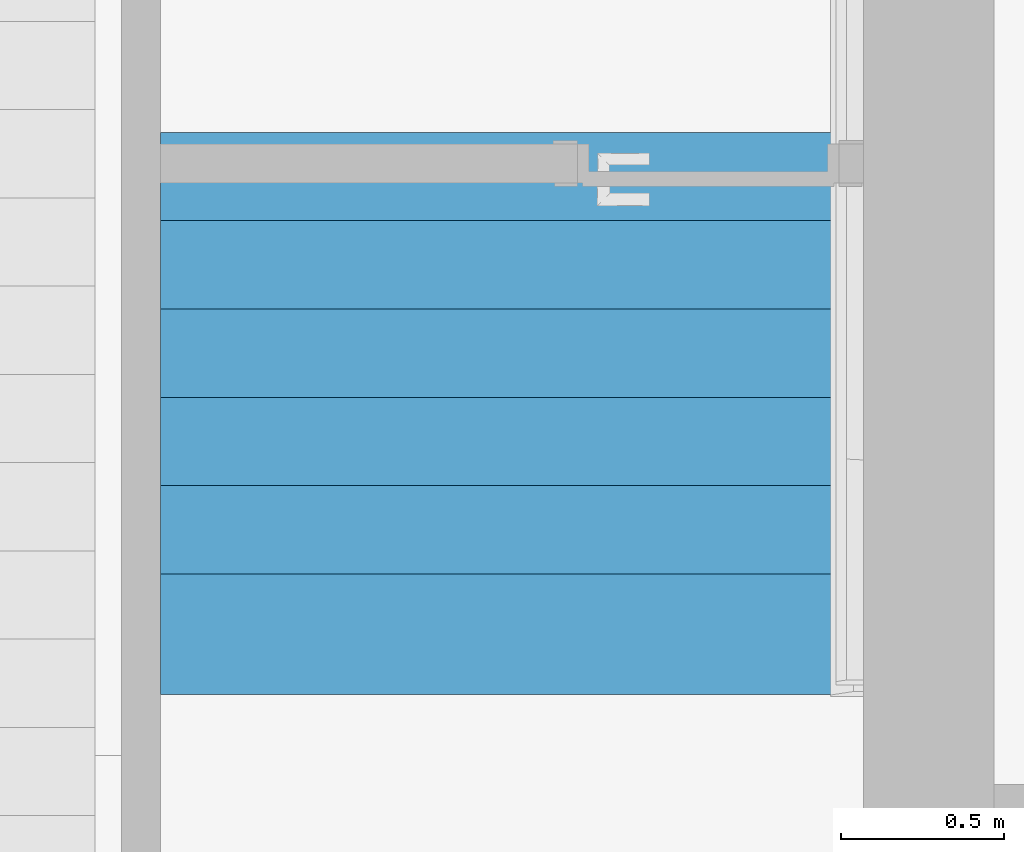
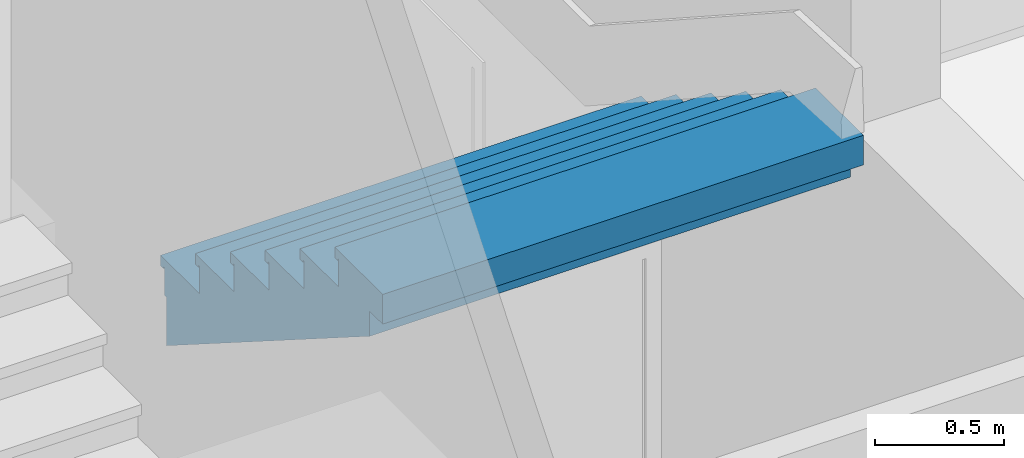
# One storey, part 98 of 117: 1 stair flight, 1 element without a shape of its own.
"""IFC4 building model written with IfcOpenShell, lengths in metres."""

from ifc_helpers import new_model, entity, si_unit, converted_unit, derived_unit, direction, frame, origin, place, context, subcontext, project, spatial, polygons, material, constituent, constituent_set, type_object, element, aggregate, save


model = new_model("IFC4")

# Units and contexts
model_context = context("Model", 3, precision=1e-05, world=origin(), true_north=direction((6.123031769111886e-17, 1.0)))
body_context = subcontext(model_context, "Body", "Model", "MODEL_VIEW")
ifc_project = project(units=[si_unit("LENGTHUNIT", "METRE"), si_unit("AREAUNIT", "SQUARE_METRE"), si_unit("VOLUMEUNIT", "CUBIC_METRE"), converted_unit("PLANEANGLEUNIT", "DEGREE", entity("IfcRatioMeasure", 0.017453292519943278), si_unit("PLANEANGLEUNIT", "RADIAN"), dimensions=[0, 0, 0, 0, 0, 0, 0]), si_unit("MASSUNIT", "GRAM", prefix="KILO"), derived_unit("MASSDENSITYUNIT", [(si_unit("MASSUNIT", "GRAM", prefix="KILO"), 1), (si_unit("LENGTHUNIT", "METRE"), -3)]), derived_unit("MOMENTOFINERTIAUNIT", [(si_unit("LENGTHUNIT", "METRE"), 4)]), si_unit("TIMEUNIT", "SECOND"), si_unit("FREQUENCYUNIT", "HERTZ"), si_unit("THERMODYNAMICTEMPERATUREUNIT", "DEGREE_CELSIUS"), derived_unit("THERMALTRANSMITTANCEUNIT", [(si_unit("MASSUNIT", "GRAM", prefix="KILO"), 1), (si_unit("THERMODYNAMICTEMPERATUREUNIT", "KELVIN"), -1), (si_unit("TIMEUNIT", "SECOND"), -3)]), derived_unit("VOLUMETRICFLOWRATEUNIT", [(si_unit("LENGTHUNIT", "METRE"), 3), (si_unit("TIMEUNIT", "SECOND"), -1)]), derived_unit("MASSFLOWRATEUNIT", [(si_unit("MASSUNIT", "GRAM", prefix="KILO"), 1), (si_unit("TIMEUNIT", "SECOND"), -1)]), derived_unit("ROTATIONALFREQUENCYUNIT", [(si_unit("TIMEUNIT", "SECOND"), -1)]), si_unit("ELECTRICCURRENTUNIT", "AMPERE"), si_unit("ELECTRICVOLTAGEUNIT", "VOLT"), si_unit("POWERUNIT", "WATT"), si_unit("FORCEUNIT", "NEWTON", prefix="KILO"), si_unit("ILLUMINANCEUNIT", "LUX"), si_unit("LUMINOUSFLUXUNIT", "LUMEN"), si_unit("LUMINOUSINTENSITYUNIT", "CANDELA"), derived_unit("USERDEFINED", [(si_unit("MASSUNIT", "GRAM", prefix="KILO"), -1), (si_unit("LENGTHUNIT", "METRE"), -2), (si_unit("TIMEUNIT", "SECOND"), 3), (si_unit("LUMINOUSFLUXUNIT", "LUMEN"), 1)]), derived_unit("SOUNDPOWERUNIT", [(si_unit("MASSUNIT", "GRAM", prefix="KILO"), 1), (si_unit("LENGTHUNIT", "METRE"), 2), (si_unit("TIMEUNIT", "SECOND"), -3)]), derived_unit("SOUNDPRESSUREUNIT", [(si_unit("MASSUNIT", "GRAM", prefix="KILO"), 1), (si_unit("LENGTHUNIT", "METRE"), -1), (si_unit("TIMEUNIT", "SECOND"), -2)]), derived_unit("LINEARVELOCITYUNIT", [(si_unit("LENGTHUNIT", "METRE"), 1), (si_unit("TIMEUNIT", "SECOND"), -1)]), si_unit("PRESSUREUNIT", "PASCAL"), derived_unit("USERDEFINED", [(si_unit("LENGTHUNIT", "METRE"), -2), (si_unit("MASSUNIT", "GRAM", prefix="KILO"), 1), (si_unit("TIMEUNIT", "SECOND"), -2)]), derived_unit("LINEARFORCEUNIT", [(si_unit("MASSUNIT", "GRAM", prefix="KILO"), 1), (si_unit("LENGTHUNIT", "METRE"), 1), (si_unit("TIMEUNIT", "SECOND"), -2), (si_unit("LENGTHUNIT", "METRE"), -1)]), derived_unit("PLANARFORCEUNIT", [(si_unit("MASSUNIT", "GRAM", prefix="KILO"), 1), (si_unit("LENGTHUNIT", "METRE"), 1), (si_unit("TIMEUNIT", "SECOND"), -2), (si_unit("LENGTHUNIT", "METRE"), -2)])], contexts=[model_context])

# Site, building, storey
site_placement = place(None, origin())
site = spatial("IfcSite", under=ifc_project, at=site_placement, Name="Superficie", CompositionType="ELEMENT")
building_placement = place(site_placement, origin())
building = spatial("IfcBuilding", under=site, at=building_placement, CompositionType="ELEMENT")
storey_placement = place(building_placement, origin())
storey = spatial("IfcBuildingStorey", under=building, at=storey_placement, Name="Nivel 0", CompositionType="ELEMENT", Elevation=0.0)

# Stair, stair flight
stair_type = type_object("IfcStairType", Name="Escalera prefabricada:Escalera prefabricada", PredefinedType="HALF_TURN_STAIR")
stair_placement = place(storey_placement, origin())
stair = element("IfcStair", 1, at=stair_placement, inside=storey, type_object=stair_type, Name="Escalera prefabricada:Escalera", ObjectType="Escalera prefabricada:Escalera prefabricada", PredefinedType="HALF_TURN_STAIR")
ifc_material_1 = material(Name="Cerámica blanca", Category="Cerámica")
ifc_constituent_1 = constituent(ifc_material_1, Name="Cerámica blanca", Category="Cerámica")
ifc_material_2 = material(Name="Hormigón", Category="Hormigón")
ifc_constituent_2 = constituent(ifc_material_2, Name="Hormigón", Category="Hormigón")
ifc_constituent_set = constituent_set(constituents=[ifc_constituent_1, ifc_constituent_2], Name="MaterialConstituentSet")
stair_flight_type = type_object("IfcStairFlightType", Name="Tramo monolítico:Huella 40 mm Mamperlán 30 mm Contrahuella 15 mm", PredefinedType="STRAIGHT")
stair_flight_placement = place(stair_placement, frame((-25.193200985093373, -1.2041707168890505, 0.0)))
stair_flight = element("IfcStairFlight", 2, at=stair_flight_placement, type_object=stair_flight_type, material=ifc_constituent_set, Name="Escalera prefabricada:Escalera:336865 Run 2", ObjectType="Tramo monolítico:Huella 40 mm Mamperlán 30 mm Contrahuella 15 mm", PredefinedType="STRAIGHT", context=body_context, shape_type="Tessellation", body=[
    polygons([(4.331468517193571e-15, 1.72, 2.6928571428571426), (4.331468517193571e-15, 1.72, 2.7428571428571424), (2.150000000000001, 1.72, 2.7428571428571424), (2.150000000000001, 1.72, 2.6928571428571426), (4.331468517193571e-15, 1.697, 2.6928571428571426), (2.150000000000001, 1.697, 2.6928571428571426), (4.331468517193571e-15, 1.697, 2.7028571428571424), (2.150000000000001, 1.697, 2.7028571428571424), (4.331468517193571e-15, 1.405, 2.7428571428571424), (2.150000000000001, 1.405, 2.7428571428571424), (2.150000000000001, 1.405, 2.7028571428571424), (4.331468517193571e-15, 1.405, 2.7028571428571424)], [[[1, 2, 3, 4]], [[5, 1, 4, 6]], [[7, 5, 6, 8]], [[3, 2, 9, 10]], [[11, 12, 7, 8]], [[3, 10, 11, 8, 6, 4]], [[9, 2, 1, 5, 7, 12]], [[10, 9, 12, 11]]], closed=True),
    polygons([(4.331468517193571e-15, 1.69, 2.7028571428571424), (4.331468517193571e-15, 1.69, 2.571428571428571), (4.331468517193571e-15, 1.675, 2.571428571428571), (4.331468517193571e-15, 1.675, 2.7028571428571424), (2.150000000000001, 1.69, 2.7028571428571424), (2.150000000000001, 1.675, 2.7028571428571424), (2.150000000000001, 1.675, 2.571428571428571), (2.150000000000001, 1.69, 2.571428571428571)], [[[1, 2, 3, 4]], [[5, 6, 7, 8]], [[2, 1, 5, 8]], [[3, 2, 8, 7]], [[4, 3, 7, 6]], [[1, 4, 6, 5]]], closed=True),
    polygons([(4.331468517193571e-15, 1.42, 2.8742857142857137), (4.331468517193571e-15, 1.42, 2.7428571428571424), (4.331468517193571e-15, 1.405, 2.7428571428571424), (4.331468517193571e-15, 1.405, 2.8742857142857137), (2.150000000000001, 1.42, 2.8742857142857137), (2.150000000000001, 1.405, 2.8742857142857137), (2.150000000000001, 1.405, 2.7428571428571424), (2.150000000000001, 1.42, 2.7428571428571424)], [[[1, 2, 3, 4]], [[5, 6, 7, 8]], [[2, 1, 5, 8]], [[3, 2, 8, 7]], [[4, 3, 7, 6]], [[1, 4, 6, 5]]], closed=True),
    polygons([(2.150000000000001, 1.4500000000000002, 2.914285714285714), (4.331468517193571e-15, 1.4500000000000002, 2.914285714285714), (4.331468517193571e-15, 1.135, 2.914285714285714), (2.150000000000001, 1.135, 2.914285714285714), (2.150000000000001, 1.135, 2.8742857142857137), (4.331468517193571e-15, 1.135, 2.8742857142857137), (4.331468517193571e-15, 1.4269999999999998, 2.8742857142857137), (2.150000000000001, 1.4269999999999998, 2.8742857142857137), (2.150000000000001, 1.4269999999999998, 2.864285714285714), (2.150000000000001, 1.4500000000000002, 2.864285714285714), (4.331468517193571e-15, 1.4500000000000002, 2.864285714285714), (4.331468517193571e-15, 1.4269999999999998, 2.864285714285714)], [[[1, 2, 3, 4]], [[5, 6, 7, 8]], [[1, 4, 5, 8, 9, 10]], [[3, 2, 11, 12, 7, 6]], [[4, 3, 6, 5]], [[11, 2, 1, 10]], [[12, 11, 10, 9]], [[7, 12, 9, 8]]], closed=True),
    polygons([(0.0, 1.149999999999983, 3.0457142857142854), (0.0, 1.149999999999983, 2.914285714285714), (0.0, 1.134999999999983, 2.914285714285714), (0.0, 1.134999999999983, 3.0457142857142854), (2.1499999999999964, 1.149999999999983, 3.0457142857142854), (2.1499999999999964, 1.134999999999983, 3.0457142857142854), (2.1499999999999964, 1.134999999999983, 2.914285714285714), (2.1499999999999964, 1.149999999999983, 2.914285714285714)], [[[1, 2, 3, 4]], [[5, 6, 7, 8]], [[2, 1, 5, 8]], [[3, 2, 8, 7]], [[4, 3, 7, 6]], [[1, 4, 6, 5]]], closed=True),
    polygons([(2.1499999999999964, 1.179999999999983, 3.0857142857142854), (0.0, 1.179999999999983, 3.0857142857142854), (0.0, 0.864999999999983, 3.0857142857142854), (2.1499999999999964, 0.864999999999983, 3.0857142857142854), (2.1499999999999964, 0.864999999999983, 3.0457142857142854), (0.0, 0.864999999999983, 3.0457142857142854), (0.0, 1.156999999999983, 3.0457142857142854), (2.1499999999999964, 1.156999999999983, 3.0457142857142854), (2.1499999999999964, 1.156999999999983, 3.0357142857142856), (2.1499999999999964, 1.179999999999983, 3.0357142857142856), (0.0, 1.179999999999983, 3.0357142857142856), (0.0, 1.156999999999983, 3.0357142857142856)], [[[1, 2, 3, 4]], [[5, 6, 7, 8]], [[1, 4, 5, 8, 9, 10]], [[3, 2, 11, 12, 7, 6]], [[4, 3, 6, 5]], [[11, 2, 1, 10]], [[12, 11, 10, 9]], [[7, 12, 9, 8]]], closed=True),
    polygons([(0.0, 0.88, 3.2171428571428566), (0.0, 0.8800000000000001, 3.0857142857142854), (0.0, 0.8650000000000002, 3.0857142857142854), (0.0, 0.865, 3.2171428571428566), (2.1499999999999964, 0.88, 3.2171428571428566), (2.1499999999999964, 0.865, 3.2171428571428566), (2.1499999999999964, 0.8650000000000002, 3.0857142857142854), (2.1499999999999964, 0.8800000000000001, 3.0857142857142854)], [[[1, 2, 3, 4]], [[5, 6, 7, 8]], [[2, 1, 5, 8]], [[3, 2, 8, 7]], [[4, 3, 7, 6]], [[1, 4, 6, 5]]], closed=True),
    polygons([(2.1499999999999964, 0.9100000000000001, 3.2571428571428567), (0.0, 0.9100000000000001, 3.2571428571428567), (0.0, 0.5950000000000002, 3.2571428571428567), (2.1499999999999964, 0.5950000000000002, 3.2571428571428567), (2.1499999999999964, 0.5950000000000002, 3.2171428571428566), (0.0, 0.5950000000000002, 3.2171428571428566), (0.0, 0.887, 3.2171428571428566), (2.1499999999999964, 0.887, 3.2171428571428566), (2.1499999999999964, 0.887, 3.207142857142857), (2.1499999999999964, 0.9100000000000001, 3.207142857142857), (0.0, 0.9100000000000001, 3.207142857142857), (0.0, 0.887, 3.207142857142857)], [[[1, 2, 3, 4]], [[5, 6, 7, 8]], [[1, 4, 5, 8, 9, 10]], [[3, 2, 11, 12, 7, 6]], [[4, 3, 6, 5]], [[11, 2, 1, 10]], [[12, 11, 10, 9]], [[7, 12, 9, 8]]], closed=True),
    polygons([(0.0, 0.6099999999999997, 3.3885714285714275), (0.0, 0.6099999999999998, 3.2571428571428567), (0.0, 0.5949999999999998, 3.2571428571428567), (0.0, 0.5949999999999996, 3.3885714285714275), (2.1499999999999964, 0.6099999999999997, 3.3885714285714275), (2.1499999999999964, 0.5949999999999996, 3.3885714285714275), (2.1499999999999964, 0.5949999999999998, 3.2571428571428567), (2.1499999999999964, 0.6099999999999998, 3.2571428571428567)], [[[1, 2, 3, 4]], [[5, 6, 7, 8]], [[2, 1, 5, 8]], [[3, 2, 8, 7]], [[4, 3, 7, 6]], [[1, 4, 6, 5]]], closed=True),
    polygons([(2.1499999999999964, 0.6399999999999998, 3.4285714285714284), (0.0, 0.6399999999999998, 3.4285714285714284), (0.0, 0.3249999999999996, 3.4285714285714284), (2.1499999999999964, 0.3249999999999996, 3.4285714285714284), (2.1499999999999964, 0.3249999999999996, 3.3885714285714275), (0.0, 0.3249999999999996, 3.3885714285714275), (0.0, 0.6169999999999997, 3.3885714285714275), (2.1499999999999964, 0.6169999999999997, 3.3885714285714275), (2.1499999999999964, 0.6169999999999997, 3.378571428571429), (2.1499999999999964, 0.6399999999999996, 3.378571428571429), (0.0, 0.6399999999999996, 3.378571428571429), (0.0, 0.6169999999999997, 3.378571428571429)], [[[1, 2, 3, 4]], [[5, 6, 7, 8]], [[1, 4, 5, 8, 9, 10]], [[3, 2, 11, 12, 7, 6]], [[4, 3, 6, 5]], [[11, 2, 1, 10]], [[12, 11, 10, 9]], [[7, 12, 9, 8]]], closed=True),
    polygons([(0.0, 0.34, 3.559999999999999), (0.0, 0.34, 3.428571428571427), (0.0, 0.32499999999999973, 3.428571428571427), (0.0, 0.325, 3.559999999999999), (2.1499999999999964, 0.34, 3.559999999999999), (2.1499999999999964, 0.325, 3.559999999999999), (2.1499999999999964, 0.32499999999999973, 3.428571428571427), (2.1499999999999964, 0.34, 3.428571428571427)], [[[1, 2, 3, 4]], [[5, 6, 7, 8]], [[2, 1, 5, 8]], [[3, 2, 8, 7]], [[4, 3, 7, 6]], [[1, 4, 6, 5]]], closed=True),
    polygons([(2.1499999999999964, 0.36999999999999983, 3.5999999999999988), (0.0, 0.3700000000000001, 3.5999999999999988), (0.0, 0.0, 3.5999999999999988), (2.1499999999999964, 0.0, 3.5999999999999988), (2.1499999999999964, 0.0, 3.559999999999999), (0.0, 0.0, 3.559999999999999), (0.0, 0.3469999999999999, 3.559999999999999), (2.1499999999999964, 0.34700000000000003, 3.559999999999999), (2.1499999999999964, 0.34700000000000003, 3.5499999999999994), (2.1499999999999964, 0.3700000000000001, 3.5499999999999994), (0.0, 0.3700000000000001, 3.5499999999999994), (0.0, 0.34700000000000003, 3.5499999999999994)], [[[1, 2, 3, 4]], [[5, 6, 7, 8]], [[1, 4, 5, 8, 9, 10]], [[3, 2, 11, 12, 7, 6]], [[4, 3, 6, 5]], [[11, 2, 1, 10]], [[12, 11, 10, 9]], [[7, 12, 9, 8]]], closed=True),
    polygons([(2.150000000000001, 1.405, 2.7028571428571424), (2.150000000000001, 1.675, 2.7028571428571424), (4.331468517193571e-15, 1.675, 2.7028571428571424), (4.331468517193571e-15, 1.405, 2.7028571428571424), (2.150000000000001, 1.405, 2.513331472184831), (2.150000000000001, 1.675, 2.34190290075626), (4.331468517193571e-15, 1.675, 2.34190290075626), (4.331468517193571e-15, 1.405, 2.513331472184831), (2.150000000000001, 1.1349999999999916, 2.8742857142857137), (2.150000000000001, 1.405, 2.8742857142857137), (4.331468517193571e-15, 1.405, 2.8742857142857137), (4.331468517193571e-15, 1.1349999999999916, 2.8742857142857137), (2.150000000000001, 1.135, 2.684760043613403), (4.331468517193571e-15, 1.135, 2.684760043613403), (2.1499999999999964, 0.8649999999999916, 3.0457142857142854), (2.1499999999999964, 1.134999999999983, 3.0457142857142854), (0.0, 1.134999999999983, 3.0457142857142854), (0.0, 0.8649999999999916, 3.0457142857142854), (2.1499999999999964, 0.864999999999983, 2.856188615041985), (0.0, 0.864999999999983, 2.856188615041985), (2.1499999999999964, 0.5949999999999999, 3.2171428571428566), (2.1499999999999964, 0.865, 3.2171428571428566), (0.0, 0.865, 3.2171428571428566), (0.0, 0.5949999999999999, 3.2171428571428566), (2.1499999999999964, 0.5950000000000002, 3.0276171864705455), (0.0, 0.595, 3.0276171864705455), (2.1499999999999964, 0.3249999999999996, 3.3885714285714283), (2.1499999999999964, 0.5949999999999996, 3.3885714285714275), (0.0, 0.5949999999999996, 3.3885714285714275), (0.0, 0.3249999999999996, 3.3885714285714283), (2.1499999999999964, 0.32499999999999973, 3.199045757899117), (0.0, 0.3249999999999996, 3.199045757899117), (2.1499999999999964, 0.32499999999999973, 3.559999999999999), (0.0, 0.325, 3.559999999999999), (0.0, 0.0, 3.559999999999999), (2.1499999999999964, 2.707167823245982e-16, 3.559999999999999), (2.1499999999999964, 0.0, 3.459999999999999), (2.1499999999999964, 0.1, 3.459999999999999), (2.1499999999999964, 0.09999999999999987, 3.34190290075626), (0.0, 0.1, 3.34190290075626), (0.0, 0.1, 3.459999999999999), (0.0, 0.0, 3.459999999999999)], [[[1, 2, 3, 4]], [[2, 1, 5, 6]], [[3, 2, 6, 7]], [[4, 3, 7, 8]], [[9, 10, 11, 12]], [[10, 9, 13, 5, 1]], [[11, 10, 1, 4]], [[12, 11, 4, 8, 14]], [[15, 16, 17, 18]], [[16, 15, 19, 13, 9]], [[17, 16, 9, 12]], [[18, 17, 12, 14, 20]], [[21, 22, 23, 24]], [[22, 21, 25, 19, 15]], [[23, 22, 15, 18]], [[24, 23, 18, 20, 26]], [[27, 28, 29, 30]], [[28, 27, 31, 25, 21]], [[29, 28, 21, 24]], [[30, 29, 24, 26, 32]], [[33, 34, 35, 36]], [[33, 36, 37, 38, 39, 31, 27]], [[34, 33, 27, 30]], [[35, 34, 30, 32, 40, 41, 42]], [[40, 39, 38, 41]], [[6, 5, 13, 19, 25, 31, 39, 40, 32, 26, 20, 14, 8, 7]], [[42, 41, 38, 37]], [[42, 37, 36, 35]]], closed=True),
])
aggregate(stair, [stair_flight])

save(model, "model.ifc")
